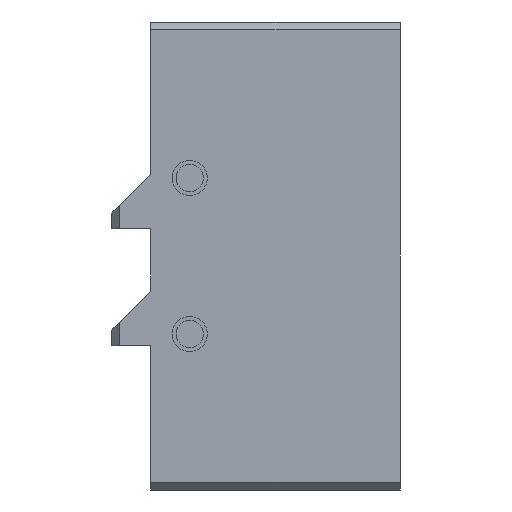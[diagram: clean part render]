
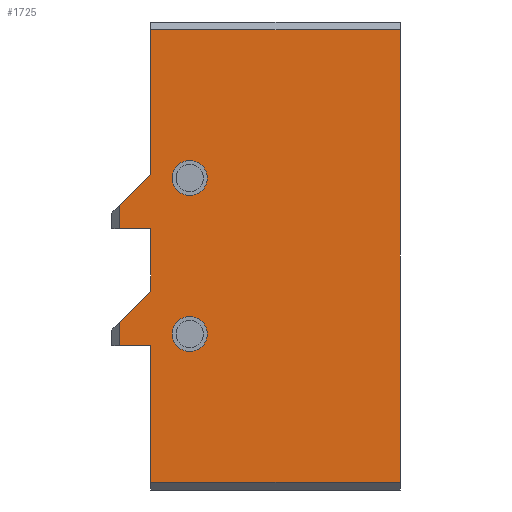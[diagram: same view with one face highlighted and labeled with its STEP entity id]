
A CAD part, left-side view. The second image highlights one B-rep face of the part: STEP entity #1725.
In plain terms, the highlighted planar face has unit normal (-1, 0, 0).
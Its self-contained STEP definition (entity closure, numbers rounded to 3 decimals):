
#147=CIRCLE('',#1840,2.25);
#148=CIRCLE('',#1841,2.25);
#251=VERTEX_POINT('',#2529);
#252=VERTEX_POINT('',#2531);
#255=VERTEX_POINT('',#2535);
#256=VERTEX_POINT('',#2536);
#259=VERTEX_POINT('',#2540);
#260=VERTEX_POINT('',#2541);
#269=VERTEX_POINT('',#2561);
#271=VERTEX_POINT('',#2568);
#272=VERTEX_POINT('',#2570);
#273=VERTEX_POINT('',#2572);
#274=VERTEX_POINT('',#2575);
#275=VERTEX_POINT('',#2577);
#276=VERTEX_POINT('',#2580);
#277=VERTEX_POINT('',#2582);
#420=VECTOR('',#2069,1.);
#432=VECTOR('',#2083,1.);
#435=VECTOR('',#2091,1.);
#436=VECTOR('',#2092,1.);
#437=VECTOR('',#2093,1.);
#438=VECTOR('',#2094,1.);
#439=VECTOR('',#2095,1.);
#440=VECTOR('',#2096,1.);
#441=VECTOR('',#2097,1.);
#442=VECTOR('',#2098,1.);
#582=LINE('',#2530,#420);
#594=LINE('',#2562,#432);
#597=LINE('',#2571,#435);
#598=LINE('',#2573,#436);
#599=LINE('',#2574,#437);
#600=LINE('',#2576,#438);
#601=LINE('',#2578,#439);
#602=LINE('',#2579,#440);
#603=LINE('',#2581,#441);
#604=LINE('',#2583,#442);
#758=EDGE_CURVE('',#251,#252,#582,.T.);
#762=EDGE_CURVE('',#255,#256,#582,.T.);
#766=EDGE_CURVE('',#259,#260,#582,.T.);
#778=EDGE_CURVE('',#269,#255,#594,.T.);
#781=EDGE_CURVE('',#271,#271,#147,.T.);
#782=EDGE_CURVE('',#272,#272,#148,.T.);
#783=EDGE_CURVE('',#273,#269,#597,.T.);
#784=EDGE_CURVE('',#252,#273,#598,.T.);
#785=EDGE_CURVE('',#274,#251,#599,.T.);
#786=EDGE_CURVE('',#274,#275,#600,.T.);
#787=EDGE_CURVE('',#260,#275,#601,.T.);
#788=EDGE_CURVE('',#276,#259,#602,.T.);
#789=EDGE_CURVE('',#277,#276,#603,.T.);
#790=EDGE_CURVE('',#256,#277,#604,.T.);
#1049=ORIENTED_EDGE('',*,*,#781,.T.);
#1050=ORIENTED_EDGE('',*,*,#782,.T.);
#1051=ORIENTED_EDGE('',*,*,#778,.F.);
#1052=ORIENTED_EDGE('',*,*,#783,.F.);
#1053=ORIENTED_EDGE('',*,*,#784,.F.);
#1054=ORIENTED_EDGE('',*,*,#758,.F.);
#1055=ORIENTED_EDGE('',*,*,#785,.F.);
#1056=ORIENTED_EDGE('',*,*,#786,.T.);
#1057=ORIENTED_EDGE('',*,*,#787,.F.);
#1058=ORIENTED_EDGE('',*,*,#766,.F.);
#1059=ORIENTED_EDGE('',*,*,#788,.F.);
#1060=ORIENTED_EDGE('',*,*,#789,.F.);
#1061=ORIENTED_EDGE('',*,*,#790,.F.);
#1062=ORIENTED_EDGE('',*,*,#762,.F.);
#1413=EDGE_LOOP('',(#1049));
#1414=EDGE_LOOP('',(#1050));
#1415=EDGE_LOOP('',(#1051,#1052,#1053,#1054,#1055,#1056,#1057,#1058,#1059,
#1060,#1061,#1062));
#1577=FACE_BOUND('',#1413,.T.);
#1578=FACE_BOUND('',#1414,.T.);
#1579=FACE_BOUND('',#1415,.T.);
#1725=ADVANCED_FACE('',(#1577,#1578,#1579),#2891,.T.);
#1839=AXIS2_PLACEMENT_3D('',#2566,#2086,$);
#1840=AXIS2_PLACEMENT_3D('',#2567,#2087,#2088);
#1841=AXIS2_PLACEMENT_3D('',#2569,#2089,#2090);
#2069=DIRECTION('',(0.,0.,1.));
#2083=DIRECTION('',(0.,-0.707,0.707));
#2086=DIRECTION('',(-1.,0.,0.));
#2087=DIRECTION('',(1.,0.,0.));
#2088=DIRECTION('',(0.,0.,-2.25));
#2089=DIRECTION('',(1.,0.,0.));
#2090=DIRECTION('',(0.,0.,2.25));
#2091=DIRECTION('',(0.,0.,1.));
#2092=DIRECTION('',(0.,1.,0.));
#2093=DIRECTION('',(0.,1.,0.));
#2094=DIRECTION('',(0.,0.,1.));
#2095=DIRECTION('',(0.,-1.,0.));
#2096=DIRECTION('',(0.,-0.707,0.707));
#2097=DIRECTION('',(0.,0.,1.));
#2098=DIRECTION('',(0.,1.,0.));
#2529=CARTESIAN_POINT('',(-40.,32.,-29.));
#2530=CARTESIAN_POINT('',(-40.,32.,-30.));
#2531=CARTESIAN_POINT('',(-40.,32.,-11.5));
#2535=CARTESIAN_POINT('',(-40.,32.,-4.5));
#2536=CARTESIAN_POINT('',(-40.,32.,3.5));
#2540=CARTESIAN_POINT('',(-40.,32.,10.5));
#2541=CARTESIAN_POINT('',(-40.,32.,29.));
#2561=CARTESIAN_POINT('',(-40.,36.,-8.5));
#2562=CARTESIAN_POINT('',(-40.,35.625,-8.125));
#2566=CARTESIAN_POINT('',(-40.,16.,-30.));
#2567=CARTESIAN_POINT('',(-40.,27.,10.));
#2568=CARTESIAN_POINT('',(-40.,27.,7.75));
#2569=CARTESIAN_POINT('',(-40.,27.,-10.));
#2570=CARTESIAN_POINT('',(-40.,27.,-7.75));
#2571=CARTESIAN_POINT('',(-40.,36.,-19.));
#2572=CARTESIAN_POINT('',(-40.,36.,-11.5));
#2573=CARTESIAN_POINT('',(-40.,32.,-11.5));
#2574=CARTESIAN_POINT('',(-40.,16.,-29.));
#2575=CARTESIAN_POINT('',(-40.,0.,-29.));
#2576=CARTESIAN_POINT('',(-40.,0.,-30.));
#2577=CARTESIAN_POINT('',(-40.,0.,29.));
#2578=CARTESIAN_POINT('',(-40.,16.,29.));
#2579=CARTESIAN_POINT('',(-40.,39.375,3.125));
#2580=CARTESIAN_POINT('',(-40.,36.,6.5));
#2581=CARTESIAN_POINT('',(-40.,36.,-11.5));
#2582=CARTESIAN_POINT('',(-40.,36.,3.5));
#2583=CARTESIAN_POINT('',(-40.,32.,3.5));
#2891=PLANE('',#1839);
